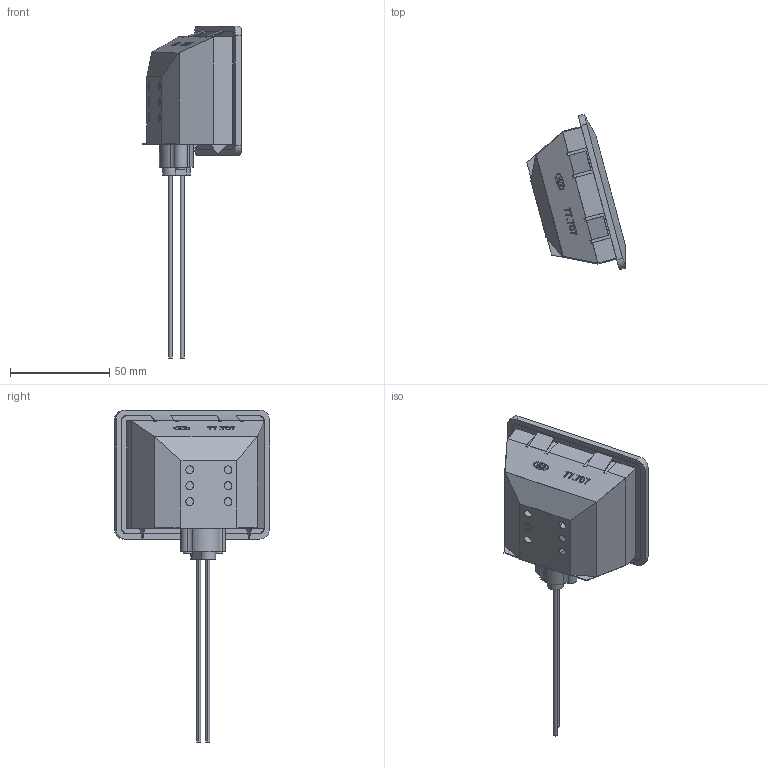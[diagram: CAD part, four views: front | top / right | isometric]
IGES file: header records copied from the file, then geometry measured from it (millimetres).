
Global section: file name: C:\CoreTechnologie\3D-In/00CYK02Y06.igs; native system: CT CoreTechnologie 3D Evolution; preprocessor: 2006; author: ; organization: `; date: 1210626.092650; units: millimetre
Bounding box: 49.52 x 78.05 x 167.1 mm (x, y, z)
Volume: 37861.7 mm3; surface area: 39383.1 mm2
Topology: 4 solids, 4 shells, 318 faces, 872 edges, 590 vertices
Faces by surface type: plane 188, revolution 107, bspline 23
